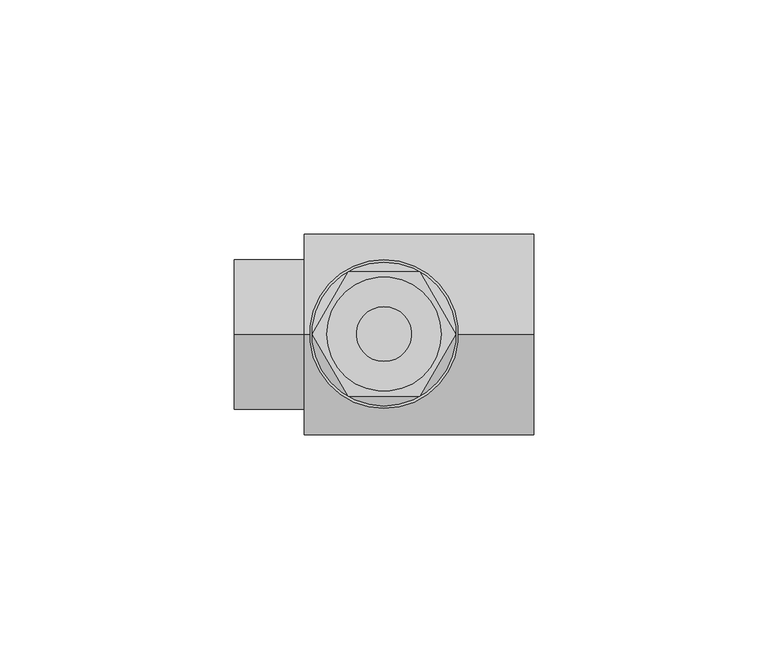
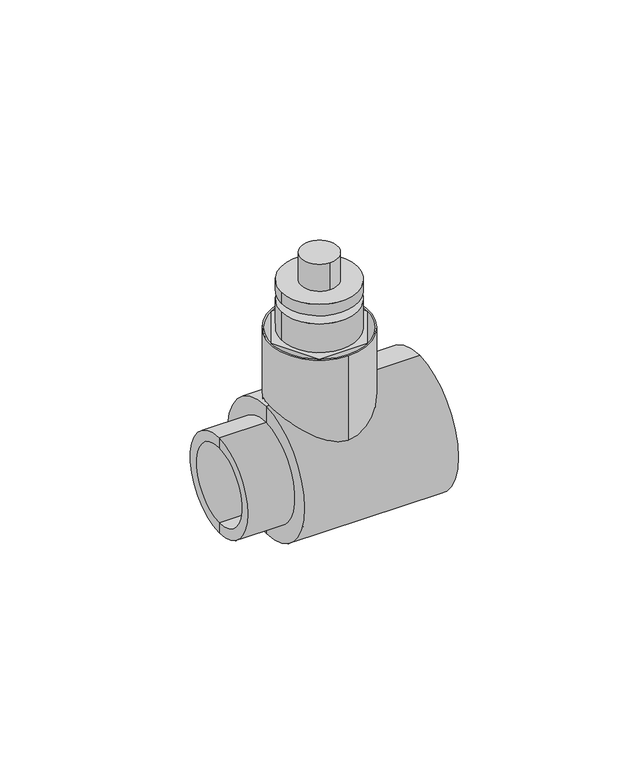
"""IFC4 building model written with IfcOpenShell, lengths in millimetres: valve geometry, Aquatherm - Draining Branch : DRAINING BRANCH."""

import ifcopenshell
import ifcopenshell.guid

model = None  # the IFC model being written
_history = None  # IfcOwnerHistory: only IFC2X3 demands one
_inside = {}  # id of a spatial element -> (the spatial element, [elements in it])
_under = {}  # id of a project, library or spatial element -> (it, [spatial elements below it])
_declared = {}  # id of a project -> (the project, [libraries it declares])
_typed = {}  # id of a type object -> (the type object, [elements of that type])
_made_of = {}  # id of a material, layer set ... -> (it, [elements and type objects made of it])


def new_model(schema):
    """Start an empty IFC model of exactly this schema.

    Asked for "IFC4X3", IfcOpenShell would pick the latest addendum, in which some entities
    have other attributes; the version numbers below select the first issue.
    IFC2X3 requires an IfcOwnerHistory on every rooted entity: one is made here for all.
    """
    global model, _history
    if schema == "IFC4X3":
        model = ifcopenshell.file(schema_version=(4, 3, 0, 0))
    else:
        model = ifcopenshell.file(schema=schema)
    _inside.clear()
    _under.clear()
    _declared.clear()
    _typed.clear()
    _made_of.clear()
    _history = None
    if model.schema == "IFC2X3":
        org = make("IfcOrganization", Name="unknown")
        user = make(
            "IfcPersonAndOrganization",
            ThePerson=make("IfcPerson", FamilyName="unknown"),
            TheOrganization=org,
        )
        app = make(
            "IfcApplication",
            ApplicationDeveloper=org,
            Version="unknown",
            ApplicationFullName="unknown",
            ApplicationIdentifier="unknown",
        )
        _history = make(
            "IfcOwnerHistory",
            OwningUser=user,
            OwningApplication=app,
            ChangeAction="ADDED",
            CreationDate=0,
        )
    return model


def make(cls, **values):
    """One entity of the class cls with the attributes given. An attribute that is None is left unset."""
    return model.create_entity(
        cls, **{name: value for name, value in values.items() if value is not None}
    )


def rooted(cls, **values):
    """An entity with a GlobalId (a new one), such as an element, a storey or a relation."""
    return make(cls, GlobalId=ifcopenshell.guid.new(), OwnerHistory=_history, **values)


def si_unit(unit_type, name, prefix=None):
    """IfcSIUnit, for example si_unit("LENGTHUNIT", "METRE", prefix="MILLI")."""
    return make("IfcSIUnit", UnitType=unit_type, Prefix=prefix, Name=name)


def assignment(units):
    """IfcUnitAssignment: the units of a project."""
    return None if units is None else make("IfcUnitAssignment", Units=units)


def point(xyz):
    """IfcCartesianPoint."""
    return None if xyz is None else make("IfcCartesianPoint", Coordinates=xyz)


def direction(xyz):
    """IfcDirection."""
    return None if xyz is None else make("IfcDirection", DirectionRatios=xyz)


def frame(location, z_axis=None, x_axis=None):
    """IfcAxis2Placement3D, a coordinate frame: its origin and axes. An axis left out is left unset."""
    return make(
        "IfcAxis2Placement3D",
        Location=point(location),
        Axis=direction(z_axis),
        RefDirection=direction(x_axis),
    )


def frame_2d(location, x_axis=None):
    """IfcAxis2Placement2D, a coordinate frame in the plane: its origin and x axis."""
    return make(
        "IfcAxis2Placement2D", Location=point(location), RefDirection=direction(x_axis)
    )


def origin():
    """The frame at (0, 0, 0) with its axes left unset."""
    return frame((0.0, 0.0, 0.0))


def origin_2d():
    """The frame at (0, 0) in the plane with its x axis left unset."""
    return frame_2d((0.0, 0.0))


def place(relative_to, where):
    """IfcLocalPlacement: puts the frame where relative to a parent placement (None: the world)."""
    return make(
        "IfcLocalPlacement", PlacementRelTo=relative_to, RelativePlacement=where
    )


def context(
    kind, dimensions, precision=None, world=None, true_north=None, identifier=None
):
    """IfcGeometricRepresentationContext, for example the 3D "Model" context."""
    return make(
        "IfcGeometricRepresentationContext",
        ContextIdentifier=identifier,
        ContextType=kind,
        CoordinateSpaceDimension=dimensions,
        Precision=precision,
        WorldCoordinateSystem=world,
        TrueNorth=true_north,
    )


def project(units=None, contexts=None):
    """IfcProject with its units and contexts."""
    return rooted(
        "IfcProject",
        Name="project",
        RepresentationContexts=contexts,
        UnitsInContext=assignment(units),
    )


def spatial(cls, under=None, at=None, **own):
    """A site, building, storey or space (cls), placed at a placement, below another one or the project."""
    s = rooted(cls, ObjectPlacement=at, **own)
    if under is not None:
        _under.setdefault(under.id(), (under, []))[1].append(s)
    return s


def polyline(points):
    """IfcPolyline through the points."""
    return make("IfcPolyline", Points=[point(p) for p in points])


def circle_curve(where, radius):
    """IfcCircle in the frame where."""
    return make("IfcCircle", Position=where, Radius=radius)


def trimmed(basis, trim1, trim2, sense, master):
    """IfcTrimmedCurve: the piece of a basis curve between two trims."""
    return make(
        "IfcTrimmedCurve",
        BasisCurve=basis,
        Trim1=trim1,
        Trim2=trim2,
        SenseAgreement=sense,
        MasterRepresentation=master,
    )


def segment(curve, same_sense, transition):
    """IfcCompositeCurveSegment."""
    return make(
        "IfcCompositeCurveSegment",
        Transition=transition,
        SameSense=same_sense,
        ParentCurve=curve,
    )


def composite_curve(segments, self_intersect=None):
    """IfcCompositeCurve: segments joined end to end."""
    return make("IfcCompositeCurve", Segments=segments, SelfIntersect=self_intersect)


def outline(outer, holes=None, kind="AREA"):
    """IfcArbitraryClosedProfileDef: a profile drawn as a closed curve; with holes, ...WithVoids."""
    if holes is None:
        return make("IfcArbitraryClosedProfileDef", ProfileType=kind, OuterCurve=outer)
    return make(
        "IfcArbitraryProfileDefWithVoids",
        ProfileType=kind,
        OuterCurve=outer,
        InnerCurves=holes,
    )


def extrude(swept, where, along, depth):
    """IfcExtrudedAreaSolid: the profile swept, set in the frame where, extruded along a direction by depth."""
    return make(
        "IfcExtrudedAreaSolid",
        SweptArea=swept,
        Position=where,
        ExtrudedDirection=direction(along),
        Depth=depth,
    )


def shape(context_of_items, identifier, shape_type, items):
    """IfcShapeRepresentation: the items that make up one representation, for example the "Body"."""
    return make(
        "IfcShapeRepresentation",
        ContextOfItems=context_of_items,
        RepresentationIdentifier=identifier,
        RepresentationType=shape_type,
        Items=items,
    )


def source(mapping_origin, context_of_items, identifier, shape_type, items):
    """IfcRepresentationMap: a shape defined once, which mapped items show again and again."""
    return make(
        "IfcRepresentationMap",
        MappingOrigin=mapping_origin,
        MappedRepresentation=shape(context_of_items, identifier, shape_type, items),
    )


def transform(
    local_origin,
    x_axis=None,
    y_axis=None,
    z_axis=None,
    scale=None,
    scale2=None,
    scale3=None,
    uniform=True,
):
    """IfcCartesianTransformationOperator3D, or its non-uniform kind. x_axis, y_axis, z_axis: its Axis1, 2, 3."""
    if uniform:
        return make(
            "IfcCartesianTransformationOperator3D",
            Axis1=direction(x_axis),
            Axis2=direction(y_axis),
            LocalOrigin=point(local_origin),
            Scale=scale,
            Axis3=direction(z_axis),
        )
    return make(
        "IfcCartesianTransformationOperator3DnonUniform",
        Axis1=direction(x_axis),
        Axis2=direction(y_axis),
        LocalOrigin=point(local_origin),
        Scale=scale,
        Axis3=direction(z_axis),
        Scale2=scale2,
        Scale3=scale3,
    )


def mapped(mapping_source, mapping_target):
    """IfcMappedItem: shows the shape of a source again, moved by a transform."""
    return make(
        "IfcMappedItem", MappingSource=mapping_source, MappingTarget=mapping_target
    )


def made_of(thing, what):
    """Note that an element or type object is made of a material, layer set ...; save() writes the relation."""
    if what is not None:
        _made_of.setdefault(what.id(), (what, []))[1].append(thing)
    return thing


def element(
    cls,
    number,
    at=None,
    inside=None,
    cuts=None,
    type_object=None,
    material=None,
    context=None,
    identifier="Body",
    shape_type=None,
    held_by="IfcProductDefinitionShape",
    body=None,
    shapes=None,
    **own,
):
    """One element of the class cls, such as IfcWall. Its Tag is "e" and its number.

    at: its placement. inside: the storey or other place that contains it. cuts: it is an
    opening in that element (IfcRelVoidsElement). A single representation is given by context,
    identifier, shape_type and body (its items); several are given by shapes. held_by: the class
    of the entity that holds the representations. save() writes the other relations.
    """
    e = rooted(cls, Tag="e%d" % number, ObjectPlacement=at, **own)
    if body is not None:
        shapes = [shape(context, identifier, shape_type, body)]
    if shapes is not None:
        e.Representation = make(held_by, Representations=shapes)
    if inside is not None:
        _inside.setdefault(inside.id(), (inside, []))[1].append(e)
    if cuts is not None:
        rooted(
            "IfcRelVoidsElement", RelatingBuildingElement=cuts, RelatedOpeningElement=e
        )
    if type_object is not None:
        _typed.setdefault(type_object.id(), (type_object, []))[1].append(e)
    return made_of(e, material)


def aggregate(whole, parts):
    """IfcRelAggregates: a whole, such as a stair, and the parts it consists of."""
    return rooted("IfcRelAggregates", RelatingObject=whole, RelatedObjects=parts)


def save(model, path):
    """Write the relations noted so far, then the file.

    IfcRelAggregates (storeys below a building ...), IfcRelContainedInSpatialStructure (elements
    in a storey), IfcRelDefinesByType, IfcRelAssociatesMaterial and IfcRelDeclares: one each for
    every whole, place, type object, material and project.
    """
    for whole, parts in _under.values():
        aggregate(whole, parts)
    for where, things in _inside.values():
        rooted(
            "IfcRelContainedInSpatialStructure",
            RelatedElements=things,
            RelatingStructure=where,
        )
    for kind, things in _typed.values():
        rooted("IfcRelDefinesByType", RelatedObjects=things, RelatingType=kind)
    for what, things in _made_of.values():
        rooted("IfcRelAssociatesMaterial", RelatedObjects=things, RelatingMaterial=what)
    for by, libraries in _declared.values():
        rooted("IfcRelDeclares", RelatingContext=by, RelatedDefinitions=libraries)
    model.write(path)


def plane_surface(at):
    """IfcPlane: the flat surface through the origin of the frame at, square to its z axis."""
    return make("IfcPlane", Position=at)


def cylinder_surface(at, radius):
    """IfcCylindricalSurface: all points at the distance radius from the z axis of the frame at."""
    return make("IfcCylindricalSurface", Position=at, Radius=radius)


def revolved_surface(curve, axis_point, axis_direction):
    """IfcSurfaceOfRevolution: the curve turned about the line through axis_point along axis_direction."""
    return make(
        "IfcSurfaceOfRevolution",
        SweptCurve=make("IfcArbitraryOpenProfileDef", ProfileType="CURVE", Curve=curve),
        AxisPosition=make("IfcAxis1Placement", Location=point(axis_point), Axis=direction(axis_direction)),
    )


def advanced_brep(points, edges, surfaces, faces):
    """IfcAdvancedBrep: a solid bounded by faces that lie on surfaces and meet in shared edges.

    An edge is (start, end): straight between two places in points (the first is 0);
    or (start, end, curve); or (start, end, curve, False) where it runs against its curve.
    A face is (place in surfaces, loops), or (place, loops, False) where it looks against
    its surface's normal. A loop lists edges by number (the first is 1), with a minus sign
    where the edge is run from its end to its start. The first loop is the outer one.
    """
    corners = [point(p) for p in points]
    vertices = [make("IfcVertexPoint", VertexGeometry=c) for c in corners]
    made = []
    for start, end, *more in edges:
        made.append(
            make(
                "IfcEdgeCurve",
                EdgeStart=vertices[start],
                EdgeEnd=vertices[end],
                EdgeGeometry=more[0] if more else make("IfcPolyline", Points=[corners[start], corners[end]]),
                SameSense=more[1] if len(more) > 1 else True,
            )
        )
    hull = []
    for where, loops, *sense in faces:
        bounds = []
        for j, loop in enumerate(loops):
            ring = [make("IfcOrientedEdge", EdgeElement=made[abs(k) - 1], Orientation=k > 0) for k in loop]
            bounds.append(
                make(
                    "IfcFaceOuterBound" if j == 0 else "IfcFaceBound",
                    Bound=make("IfcEdgeLoop", EdgeList=ring),
                    Orientation=True,
                )
            )
        hull.append(make("IfcAdvancedFace", Bounds=bounds, FaceSurface=surfaces[where], SameSense=sense[0] if sense else True))
    return make("IfcAdvancedBrep", Outer=make("IfcClosedShell", CfsFaces=hull))


def valve_7d967944(model_context):
    return source(origin(), model_context, "Body", "SolidModel", [
        extrude(outline(composite_curve([segment(trimmed(circle_curve(origin_2d(), 5.842), [point((0.0, 5.842))], [point((0.0, -5.842))], False, "CARTESIAN"), True, "CONTINUOUS"), segment(trimmed(circle_curve(origin_2d(), 5.842), [point((0.0, -5.842))], [point((0.0, 5.842))], False, "CARTESIAN"), True, "CONTINUOUS")], self_intersect=False)), frame((0.0, 0.0, 58.42), z_axis=(0.0, 0.0, 1.0), x_axis=(1.0, 0.0, 0.0)), (0.0, 0.0, 1.0), 9.144),
        extrude(outline(composite_curve([segment(trimmed(circle_curve(origin_2d(), 12.192), [point((12.192, 0.0))], [point((-12.192, 0.0))], False, "CARTESIAN"), True, "CONTINUOUS"), segment(trimmed(circle_curve(origin_2d(), 12.192), [point((-12.192, 0.0))], [point((12.192, 0.0))], False, "CARTESIAN"), True, "CONTINUOUS")], self_intersect=False)), frame((0.0, 0.0, 54.61), z_axis=(0.0, 0.0, 1.0), x_axis=(1.0, 0.0, 0.0)), (0.0, 0.0, 1.0), 3.81),
        extrude(outline(composite_curve([segment(trimmed(circle_curve(origin_2d(), 6.35), [point((6.35, 0.0))], [point((-6.35, 0.0))], False, "CARTESIAN"), True, "CONTINUOUS"), segment(trimmed(circle_curve(origin_2d(), 6.35), [point((-6.35, 0.0))], [point((6.35, 0.0))], False, "CARTESIAN"), True, "CONTINUOUS")], self_intersect=False)), frame((0.0, 0.0, 51.816), z_axis=(0.0, 0.0, 1.0), x_axis=(1.0, 0.0, 0.0)), (0.0, 0.0, 1.0), 2.794),
        extrude(outline(composite_curve([segment(trimmed(circle_curve(origin_2d(), 12.192), [point((12.192, 0.0))], [point((-12.192, 0.0))], False, "CARTESIAN"), True, "CONTINUOUS"), segment(trimmed(circle_curve(origin_2d(), 12.192), [point((-12.192, 0.0))], [point((12.192, 0.0))], False, "CARTESIAN"), True, "CONTINUOUS")], self_intersect=False)), frame((0.0, 0.0, 42.164), z_axis=(0.0, 0.0, 1.0), x_axis=(1.0, 0.0, 0.0)), (0.0, 0.0, 1.0), 9.652),
        extrude(outline(polyline([(15.367, 0.0), (7.6835, -13.3082124), (-7.6835, -13.3082124), (-15.367, 0.0), (-7.6835, 13.3082124), (7.6835, 13.3082124), (15.367, 0.0)])), frame((0.0, 0.0, 38.862), z_axis=(0.0, 0.0, 1.0), x_axis=(1.0, 0.0, 0.0)), (0.0, 0.0, 1.0), 3.302),
        extrude(outline(composite_curve([segment(trimmed(circle_curve(origin_2d(), 15.875), [point((0.0, 15.875))], [point((0.0, -15.875))], False, "CARTESIAN"), True, "CONTINUOUS"), segment(trimmed(circle_curve(origin_2d(), 15.875), [point((0.0, -15.875))], [point((0.0, 15.875))], False, "CARTESIAN"), True, "CONTINUOUS")], self_intersect=False), holes=[composite_curve([segment(trimmed(circle_curve(origin_2d(), 15.367), [point((0.0, 15.367))], [point((0.0, -15.367))], True, "CARTESIAN"), True, "CONTINUOUS"), segment(trimmed(circle_curve(origin_2d(), 15.367), [point((0.0, -15.367))], [point((0.0, 15.367))], True, "CARTESIAN"), True, "CONTINUOUS")], self_intersect=False)]), frame((0.0, 0.0, 12.7), z_axis=(0.0, 0.0, 1.0), x_axis=(1.0, 0.0, 0.0)), (0.0, 0.0, 1.0), 29.464),
        advanced_brep(
        [(-17.018, 0.0, -21.463), (-17.018, 0.0, 21.463), (32.004, 0.0, 21.463), (32.004, 0.0, -21.463), (-17.018, 0.0, -16.002), (-17.018, 0.0, 16.002), (-32.004, 0.0, -16.002), (-32.004, 0.0, 16.002), (-32.004, 0.0, -12.7), (-32.004, 0.0, 12.7), (13.97, 0.0, -12.7), (13.97, 0.0, 12.7), (13.97, 0.0, -16.002), (13.97, 0.0, 16.002), (32.004, 0.0, -16.002), (32.004, 0.0, 16.002)],
        [
            (0, 1, circle_curve(frame((-17.018, 0.0, 0.0), z_axis=(1.0, 0.0, 0.0), x_axis=(0.0, 0.0, 1.0)), 21.463)),
            (1, 2),
            (2, 3, circle_curve(frame((32.004, 0.0, 0.0), z_axis=(-1.0, 0.0, 0.0), x_axis=(0.0, 0.0, 1.0)), 21.463)),
            (3, 0),
            (1, 0, circle_curve(frame((-17.018, 0.0, 0.0), z_axis=(1.0, 0.0, 0.0), x_axis=(0.0, 0.0, 1.0)), 21.463)),
            (3, 2, circle_curve(frame((32.004, 0.0, 0.0), z_axis=(-1.0, 0.0, 0.0), x_axis=(0.0, 0.0, 1.0)), 21.463)),
            (4, 5, circle_curve(frame((-17.018, 0.0, 0.0), z_axis=(1.0, 0.0, 0.0), x_axis=(0.0, 0.0, 1.0)), 16.002)),
            (5, 1),
            (0, 4),
            (5, 4, circle_curve(frame((-17.018, 0.0, 0.0), z_axis=(1.0, 0.0, 0.0), x_axis=(0.0, 0.0, 1.0)), 16.002)),
            (6, 7, circle_curve(frame((-32.004, 0.0, 0.0), z_axis=(1.0, 0.0, 0.0), x_axis=(0.0, 0.0, 1.0)), 16.002)),
            (7, 5),
            (4, 6),
            (7, 6, circle_curve(frame((-32.004, 0.0, 0.0), z_axis=(1.0, 0.0, 0.0), x_axis=(0.0, 0.0, 1.0)), 16.002)),
            (8, 9, circle_curve(frame((-32.004, 0.0, 0.0), z_axis=(1.0, 0.0, 0.0), x_axis=(0.0, 0.0, 1.0)), 12.7)),
            (9, 7),
            (6, 8),
            (9, 8, circle_curve(frame((-32.004, 0.0, 0.0), z_axis=(1.0, 0.0, 0.0), x_axis=(0.0, 0.0, 1.0)), 12.7)),
            (10, 11, circle_curve(frame((13.97, 0.0, 0.0), z_axis=(1.0, 0.0, 0.0), x_axis=(0.0, 0.0, 1.0)), 12.7)),
            (11, 9),
            (8, 10),
            (11, 10, circle_curve(frame((13.97, 0.0, 0.0), z_axis=(1.0, 0.0, 0.0), x_axis=(0.0, 0.0, 1.0)), 12.7)),
            (12, 13, circle_curve(frame((13.97, 0.0, 0.0), z_axis=(1.0, 0.0, 0.0), x_axis=(0.0, 0.0, 1.0)), 16.002)),
            (13, 11),
            (10, 12),
            (13, 12, circle_curve(frame((13.97, 0.0, 0.0), z_axis=(1.0, 0.0, 0.0), x_axis=(0.0, 0.0, 1.0)), 16.002)),
            (14, 15, circle_curve(frame((32.004, 0.0, 0.0), z_axis=(1.0, 0.0, 0.0), x_axis=(0.0, 0.0, 1.0)), 16.002)),
            (15, 13),
            (12, 14),
            (15, 14, circle_curve(frame((32.004, 0.0, 0.0), z_axis=(1.0, 0.0, 0.0), x_axis=(0.0, 0.0, 1.0)), 16.002)),
            (2, 15),
            (14, 3),
        ],
        [
            cylinder_surface(frame((-38.354, 0.0, 0.0), z_axis=(-1.0, 0.0, 0.0), x_axis=(0.0, 0.0, 1.0)), 21.463),
            plane_surface(frame((-17.018, 0.0, 0.0), z_axis=(-1.0, 0.0, 0.0), x_axis=(0.0, 0.0, 1.0))),
            cylinder_surface(frame((-38.354, 0.0, 0.0), z_axis=(-1.0, 0.0, 0.0), x_axis=(0.0, 0.0, 1.0)), 16.002),
            plane_surface(frame((-32.004, 0.0, 0.0), z_axis=(-1.0, 0.0, 0.0), x_axis=(0.0, 0.0, 1.0))),
            revolved_surface(polyline([(-32.004, 0.0, 12.7), (13.969999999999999, 0.0, 12.7)]), (-38.354, 0.0, 0.0), (-1.0, 0.0, 0.0)),
            plane_surface(frame((13.97, 0.0, 0.0), z_axis=(1.0, 0.0, 0.0), x_axis=(0.0, 0.0, 1.0))),
            revolved_surface(polyline([(13.969999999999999, 0.0, 16.002), (32.004000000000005, 0.0, 16.002)]), (-38.354, 0.0, 0.0), (-1.0, 0.0, 0.0)),
            plane_surface(frame((32.004, 0.0, 0.0), z_axis=(1.0, 0.0, 0.0), x_axis=(0.0, 0.0, 1.0))),
        ],
        [
            (0, [[1, 2, 3, 4]]),
            (0, [[5, -4, 6, -2]]),
            (1, [[7, 8, -1, 9]]),
            (1, [[10, -9, -5, -8]]),
            (2, [[11, 12, -7, 13]]),
            (2, [[14, -13, -10, -12]]),
            (3, [[15, 16, -11, 17]]),
            (3, [[18, -17, -14, -16]]),
            (4, [[19, 20, -15, 21]]),
            (4, [[22, -21, -18, -20]]),
            (5, [[23, 24, -19, 25]]),
            (5, [[26, -25, -22, -24]]),
            (6, [[27, 28, -23, 29]]),
            (6, [[30, -29, -26, -28]]),
            (7, [[-3, 31, -27, 32]]),
            (7, [[-6, -32, -30, -31]]),
        ],
    ),
    ])


if __name__ == "__main__":
    model = new_model("IFC4")
    model_context = context("Model", 3, world=origin())
    ifc_project = project(units=[si_unit("LENGTHUNIT", "METRE", prefix="MILLI")], contexts=[model_context])
    site = spatial("IfcSite", under=ifc_project)
    building = spatial("IfcBuilding", under=site)
    placement = place(None, origin())
    valve_shape = valve_7d967944(model_context)
    element("IfcValve", 1, ObjectType="Aquatherm - Draining Branch : DRAINING BRANCH", at=placement, inside=building, context=model_context, shape_type="MappedRepresentation", body=[
        mapped(valve_shape, transform((0.0, 0.0, 0.0), x_axis=(1.0, 0.0, 0.0), y_axis=(0.0, 1.0, 0.0), z_axis=(0.0, 0.0, 1.0))),
    ])
    save(model, "model.ifc")
